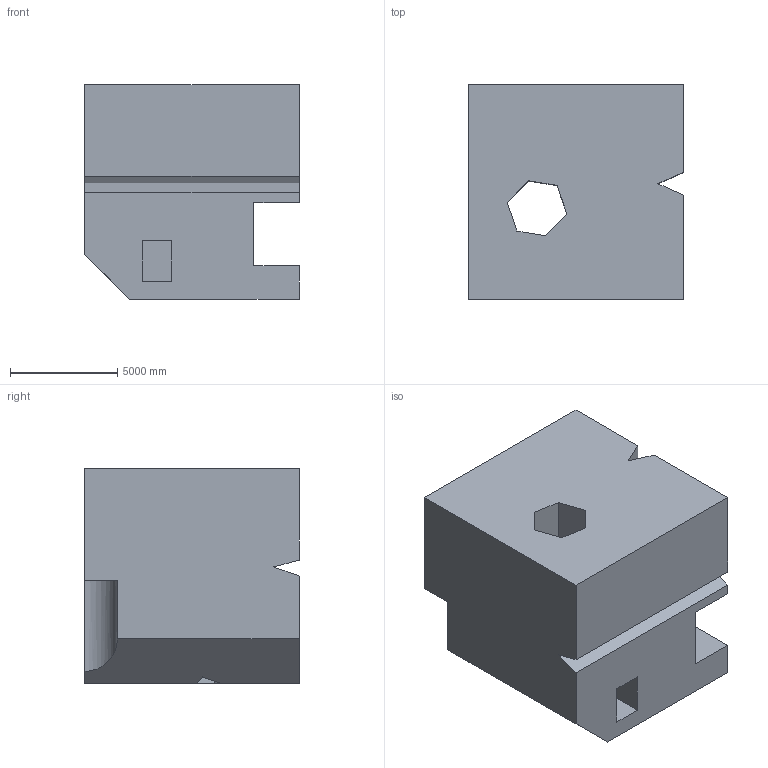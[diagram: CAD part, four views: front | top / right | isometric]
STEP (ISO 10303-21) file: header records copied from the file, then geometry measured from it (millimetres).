
FILE_DESCRIPTION (( 'STEP AP203' ), '1' );
FILE_NAME ('127.STEP', '2022-08-31T11:45:28', ( 'user' ), ( '' ), 'SwSTEP 2.0', 'SolidWorks 2021', '' );
FILE_SCHEMA (( 'CONFIG_CONTROL_DESIGN' ));
Length unit declared in the file: centimetre
Products named in the file (1): 127
Bounding box: 10000 x 10000 x 10000 mm (x, y, z)
Volume: 847372310326.4 mm3; surface area: 719095809.1 mm2
Topology: 1 solids, 1 shells, 33 faces, 93 edges, 62 vertices
Faces by surface type: plane 32, cylinder 1
Entity records: 1129 total; most frequent: CARTESIAN_POINT 192, ORIENTED_EDGE 186, DIRECTION 161, EDGE_CURVE 93, VECTOR 91, LINE 91, VERTEX_POINT 62, AXIS2_PLACEMENT_3D 35
